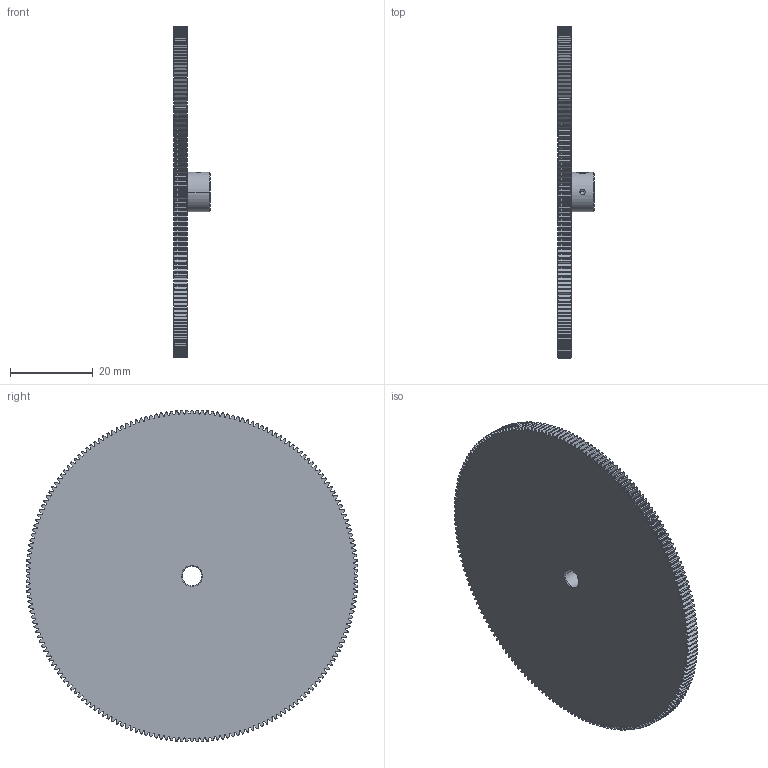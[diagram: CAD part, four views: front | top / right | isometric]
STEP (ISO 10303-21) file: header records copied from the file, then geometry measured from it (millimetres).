
FILE_DESCRIPTION((''),'2;1');
FILE_NAME('40809','2011-01-23T',('carefree'),(''),'PRO/ENGINEER BY PARAMETRIC TECHNOLOGY CORPORATION, 2005030','PRO/ENGINEER BY PARAMETRIC TECHNOLOGY CORPORATION, 2005030','');
FILE_SCHEMA(('CONFIG_CONTROL_DESIGN'));
Products named in the file (1): 40809
Bounding box: 8.71 x 80.17 x 80.17 mm (x, y, z)
Volume: 15927.8 mm3; surface area: 11754.3 mm2
Topology: 2 solids, 2 shells, 1646 faces, 4899 edges, 3257 vertices
Faces by surface type: cylinder 812, torus 402, extrusion 400, plane 18, cone 12, bspline 2
Entity records: 63157 total; most frequent: CARTESIAN_POINT 20130, ORIENTED_EDGE 9794, DIRECTION 8207, EDGE_CURVE 4897, AXIS2_PLACEMENT_3D 3276, VERTEX_POINT 3257, CIRCLE 2032, B_SPLINE_CURVE_WITH_KNOTS 2010
